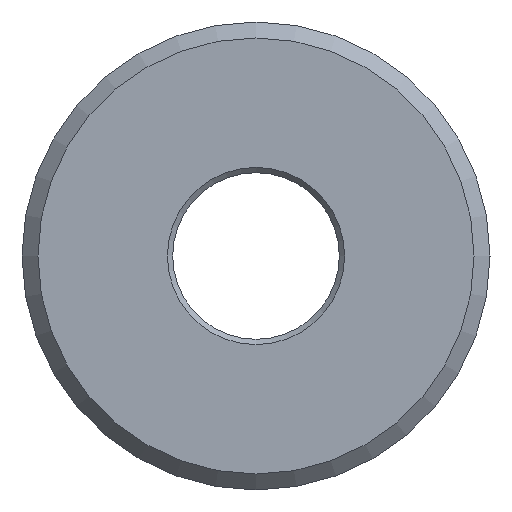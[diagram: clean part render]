
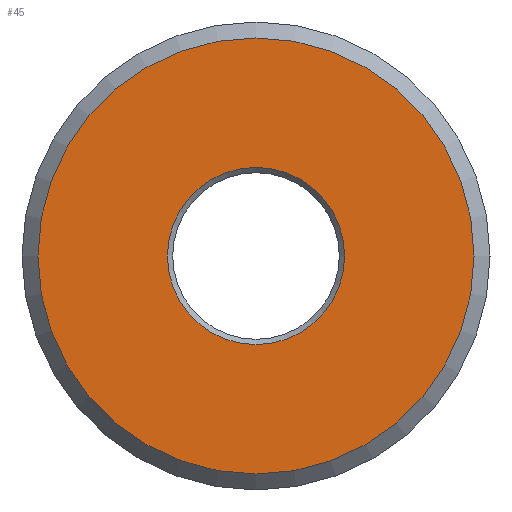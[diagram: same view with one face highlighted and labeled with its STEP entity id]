
A CAD part, left-side view. The second image highlights one B-rep face of the part: STEP entity #45.
In plain terms, the highlighted planar face has unit normal (-1, 0, 0).
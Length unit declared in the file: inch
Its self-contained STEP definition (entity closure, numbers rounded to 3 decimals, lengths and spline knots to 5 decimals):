
#45 = ADVANCED_FACE( '', ( #96, #97 ), #98, .F. );
#96 = FACE_OUTER_BOUND( '', #155, .T. );
#97 = FACE_BOUND( '', #156, .T. );
#98 = PLANE( '', #157 );
#155 = EDGE_LOOP( '', ( #216 ) );
#156 = EDGE_LOOP( '', ( #217 ) );
#157 = AXIS2_PLACEMENT_3D( '', #218, #219, #220 );
#216 = ORIENTED_EDGE( '', *, *, #282, .F. );
#217 = ORIENTED_EDGE( '', *, *, #271, .T. );
#218 = CARTESIAN_POINT( '', ( 0., 0., 0. ) );
#219 = DIRECTION( '', ( 1., 0., 0. ) );
#220 = DIRECTION( '', ( 0., 0., -1. ) );
#271 = EDGE_CURVE( '', #298, #298, #299, .T. );
#282 = EDGE_CURVE( '', #316, #316, #317, .T. );
#298 = VERTEX_POINT( '', #337 );
#299 = CIRCLE( '', #338, 0.08335 );
#316 = VERTEX_POINT( '', #355 );
#317 = CIRCLE( '', #356, 0.20508 );
#337 = CARTESIAN_POINT( '', ( 0., 0., -0.08335 ) );
#338 = AXIS2_PLACEMENT_3D( '', #376, #377, #378 );
#355 = CARTESIAN_POINT( '', ( 0., 0., -0.20508 ) );
#356 = AXIS2_PLACEMENT_3D( '', #397, #398, #399 );
#376 = CARTESIAN_POINT( '', ( 0., 0., 0. ) );
#377 = DIRECTION( '', ( 1., 0., 0. ) );
#378 = DIRECTION( '', ( 0., 0., -1. ) );
#397 = CARTESIAN_POINT( '', ( 0., 0., 0. ) );
#398 = DIRECTION( '', ( 1., 0., 0. ) );
#399 = DIRECTION( '', ( 0., 0., -1. ) );
